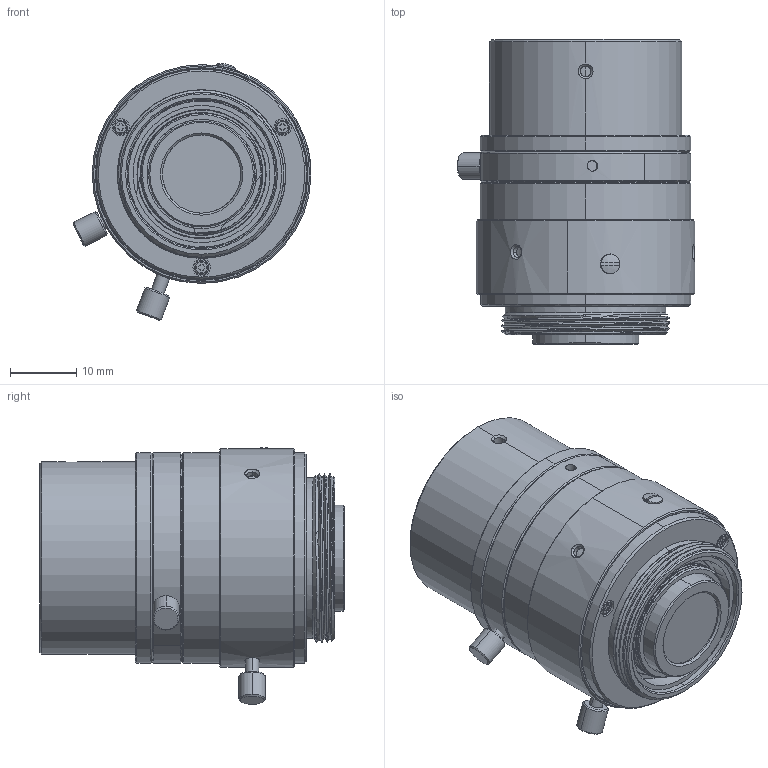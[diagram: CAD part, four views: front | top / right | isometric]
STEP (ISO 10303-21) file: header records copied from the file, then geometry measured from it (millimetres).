
FILE_DESCRIPTION (( 'STEP AP203' ), '1' );
FILE_NAME ('HN-P-1228-6M-C1-1.8_3D_Modeling.STEP', '2023-03-29T01:01:28', ( 'DH' ), ( '' ), 'SwSTEP 2.0', 'SolidWorks 2016', '' );
FILE_SCHEMA (( 'CONFIG_CONTROL_DESIGN' ));
Length unit declared in the file: millimetre
Products named in the file (21): HN-P-1228-6M-C1-1.8_3D_Modeling; DH-12-02_ASM; DH-12-102; DH-12-202; DH-12-01_ASM; DH-12-403; DH1-16-301; DH-16-404; DH1-16-308; DH-12-403_ASM; DH-16-407; DH-12-201; DH1-16-203; DH-12-401; DH-12-101; DH1-16-501; DH-12-G8; DH-12-G1; DH1-16-502; DH-12-108; DH-12-103
Assembly tree (23 placements, depth 3):
  HN-P-1228-6M-C1-1.8_3D_Modeling
    DH-12-201
    DH-12-01_ASM
      DH-12-101
      DH-12-G1
      DH-12-103
      DH-12-102
    DH1-16-301
    DH1-16-308
    DH-16-407
    DH-12-401
    DH-12-02_ASM
      DH-12-G8
      DH-12-108
    DH-12-202
    DH-12-403_ASM
      DH-12-403
      DH-16-404
    DH1-16-203
    DH1-16-501  x2
    DH1-16-502  x3
Bounding box: 35.89 x 45.98 x 38.75 mm (x, y, z)
Volume: 6566.9 mm3; surface area: 28072 mm2
Topology: 16 solids, 20 shells, 961 faces, 2635 edges, 1727 vertices
Faces by surface type: cylinder 368, cone 253, plane 165, bspline 163, sphere 6, torus 6
Entity records: 93659 total; most frequent: CARTESIAN_POINT 71256, ORIENTED_EDGE 4775, DIRECTION 3144, EDGE_CURVE 2420, VERTEX_POINT 1597, B_SPLINE_CURVE_WITH_KNOTS 1244, AXIS2_PLACEMENT_3D 1212, EDGE_LOOP 1013
